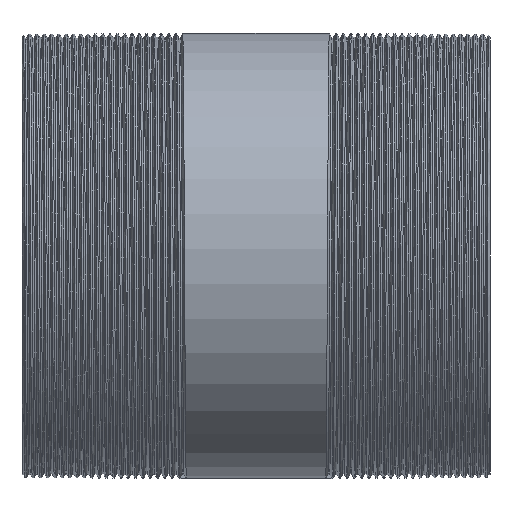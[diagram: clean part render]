
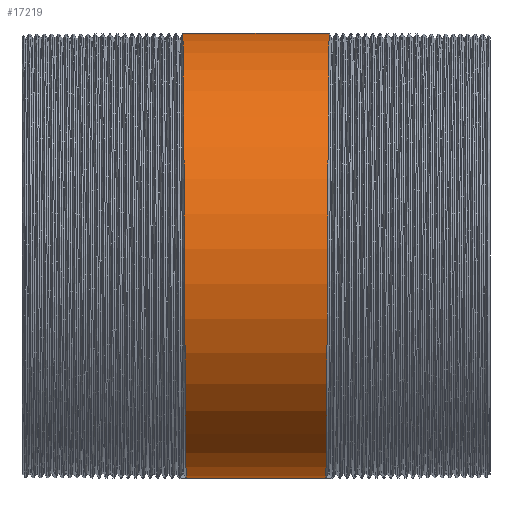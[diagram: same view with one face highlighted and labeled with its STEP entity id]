
A CAD part, front view. The second image highlights one B-rep face of the part: STEP entity #17219.
In plain terms, the highlighted cylindrical face has radius 38.05 mm (diameter 76.1 mm), a partial arc.
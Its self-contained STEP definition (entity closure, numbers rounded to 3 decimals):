
#305 = CARTESIAN_POINT ( 'NONE',  ( -12.141, -38.05, -15.761 ) ) ;
#404 = ORIENTED_EDGE ( 'NONE', *, *, #8493, .T. ) ;
#511 = CARTESIAN_POINT ( 'NONE',  ( -12.219, -38.05, 0. ) ) ;
#1112 = DIRECTION ( 'NONE',  ( -1., 0., 0. ) ) ;
#1421 = CARTESIAN_POINT ( 'NONE',  ( 11.906, 0., -38.05 ) ) ;
#1827 = CARTESIAN_POINT ( 'NONE',  ( -12.453, -15.761, 38.05 ) ) ;
#2077 = LINE ( 'NONE', #16167, #3744 ) ;
#3161 = ORIENTED_EDGE ( 'NONE', *, *, #12986, .T. ) ;
#3389 = DIRECTION ( 'NONE',  ( -1., 0., 0. ) ) ;
#3419 = CARTESIAN_POINT ( 'NONE',  ( 12.375, -26.905, 26.905 ) ) ;
#3425 = FACE_OUTER_BOUND ( 'NONE', #19853, .T. ) ;
#3744 = VECTOR ( 'NONE', #3389, 1000. ) ;
#3819 = ORIENTED_EDGE ( 'NONE', *, *, #17012, .F. ) ;
#3830 = CARTESIAN_POINT ( 'NONE',  ( 12.063, -26.905, -26.905 ) ) ;
#4447 = VERTEX_POINT ( 'NONE', #6719 ) ;
#4740 = CYLINDRICAL_SURFACE ( 'NONE', #5239, 38.05 ) ;
#4842 = CARTESIAN_POINT ( 'NONE',  ( -149.494, 0., 0. ) ) ;
#5239 = AXIS2_PLACEMENT_3D ( 'NONE', #4842, #14382, #6564 ) ;
#6564 = DIRECTION ( 'NONE',  ( 0., 0., 1. ) ) ;
#6719 = CARTESIAN_POINT ( 'NONE',  ( -12.531, 0., 38.05 ) ) ;
#8030 = CARTESIAN_POINT ( 'NONE',  ( -11.906, 0., -38.05 ) ) ;
#8315 = CARTESIAN_POINT ( 'NONE',  ( -11.984, -15.761, -38.05 ) ) ;
#8423 = LINE ( 'NONE', #11865, #11006 ) ;
#8493 = EDGE_CURVE ( 'NONE', #14488, #9580, #10001, .T. ) ;
#9523 = CARTESIAN_POINT ( 'NONE',  ( -12.297, -38.05, 15.761 ) ) ;
#9580 = VERTEX_POINT ( 'NONE', #16559 ) ;
#9593 = CARTESIAN_POINT ( 'NONE',  ( 12.453, -15.761, 38.05 ) ) ;
#9829 = CARTESIAN_POINT ( 'NONE',  ( -12.531, 0., 38.05 ) ) ;
#10001 =( BOUNDED_CURVE ( )  B_SPLINE_CURVE ( 2, ( #12649, #17310, #3830, #16196, #18822, #11117, #3419, #9593, #15790 ),
 .UNSPECIFIED., .F., .T. ) 
 B_SPLINE_CURVE_WITH_KNOTS ( ( 3, 2, 2, 2, 3 ),
 ( 0., 0.005, 0.011, 0.016, 0.022 ),
 .UNSPECIFIED. ) 
 CURVE ( )  GEOMETRIC_REPRESENTATION_ITEM ( )  RATIONAL_B_SPLINE_CURVE ( ( 1., 0.924, 1., 0.924, 1., 0.924, 1., 0.924, 1. ) ) 
 REPRESENTATION_ITEM ( '' )  );
#11006 = VECTOR ( 'NONE', #1112, 1000. ) ;
#11117 = CARTESIAN_POINT ( 'NONE',  ( 12.297, -38.05, 15.761 ) ) ;
#11348 = EDGE_CURVE ( 'NONE', #14488, #16811, #2077, .T. ) ;
#11865 = CARTESIAN_POINT ( 'NONE',  ( -149.494, 0., 38.05 ) ) ;
#12649 = CARTESIAN_POINT ( 'NONE',  ( 11.906, 0., -38.05 ) ) ;
#12986 = EDGE_CURVE ( 'NONE', #9580, #4447, #8423, .T. ) ;
#14098 = CARTESIAN_POINT ( 'NONE',  ( -12.375, -26.905, 26.905 ) ) ;
#14382 = DIRECTION ( 'NONE',  ( -1., 0., 0. ) ) ;
#14404 = CARTESIAN_POINT ( 'NONE',  ( -11.906, 0., -38.05 ) ) ;
#14488 = VERTEX_POINT ( 'NONE', #1421 ) ;
#14966 = ORIENTED_EDGE ( 'NONE', *, *, #11348, .F. ) ;
#15790 = CARTESIAN_POINT ( 'NONE',  ( 12.531, 0., 38.05 ) ) ;
#16167 = CARTESIAN_POINT ( 'NONE',  ( -149.494, 0., -38.05 ) ) ;
#16196 = CARTESIAN_POINT ( 'NONE',  ( 12.141, -38.05, -15.761 ) ) ;
#16559 = CARTESIAN_POINT ( 'NONE',  ( 12.531, 0., 38.05 ) ) ;
#16811 = VERTEX_POINT ( 'NONE', #8030 ) ;
#17012 = EDGE_CURVE ( 'NONE', #16811, #4447, #17403, .T. ) ;
#17219 = ADVANCED_FACE ( 'NONE', ( #3425 ), #4740, .T. ) ;
#17310 = CARTESIAN_POINT ( 'NONE',  ( 11.984, -15.761, -38.05 ) ) ;
#17403 =( BOUNDED_CURVE ( )  B_SPLINE_CURVE ( 2, ( #14404, #8315, #19160, #305, #511, #9523, #14098, #1827, #9829 ),
 .UNSPECIFIED., .F., .F. ) 
 B_SPLINE_CURVE_WITH_KNOTS ( ( 3, 2, 2, 2, 3 ),
 ( 0., 0.005, 0.011, 0.016, 0.022 ),
 .UNSPECIFIED. ) 
 CURVE ( )  GEOMETRIC_REPRESENTATION_ITEM ( )  RATIONAL_B_SPLINE_CURVE ( ( 1., 0.924, 1., 0.924, 1., 0.924, 1., 0.924, 1. ) ) 
 REPRESENTATION_ITEM ( '' )  );
#18822 = CARTESIAN_POINT ( 'NONE',  ( 12.219, -38.05, 0. ) ) ;
#19160 = CARTESIAN_POINT ( 'NONE',  ( -12.063, -26.905, -26.905 ) ) ;
#19853 = EDGE_LOOP ( 'NONE', ( #14966, #404, #3161, #3819 ) ) ;
